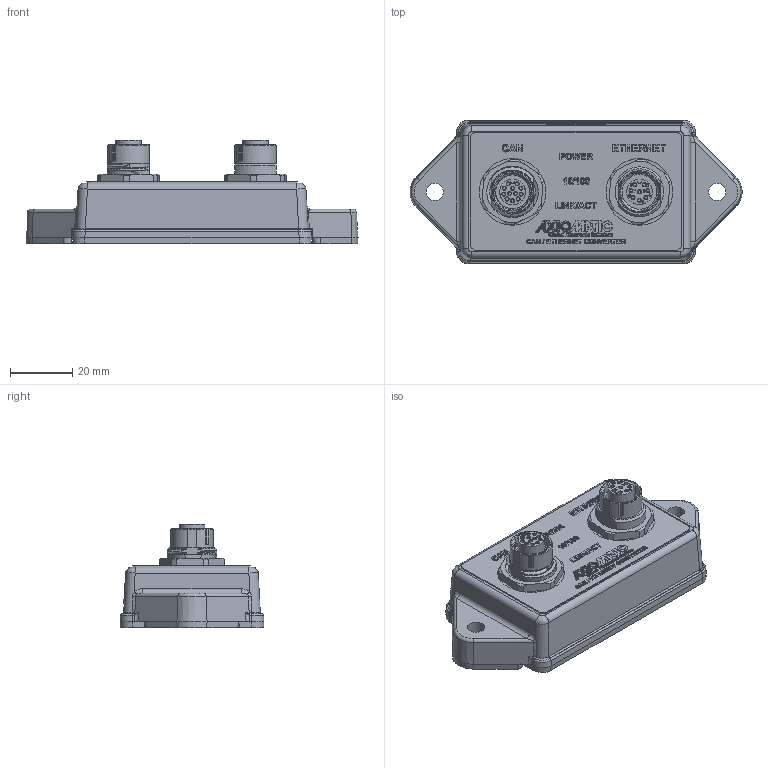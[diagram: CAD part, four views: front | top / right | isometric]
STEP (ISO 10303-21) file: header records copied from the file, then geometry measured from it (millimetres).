
FILE_DESCRIPTION(/* description */ (''),/* implementation_level */ '2;1');
FILE_NAME(/* name */ 'S:\Projects\RS232-RS232-RS422-CAN-ENET, AX142100, Proj_20008\MECHANICAL\STEP\Updated STEP\FG-AX142100 .stp',/* time_stamp */ '2022-10-05T11:58:30-04:00',/* author */ ('elondono'),/* organization */ (''),/* preprocessor_version */ 'ST-DEVELOPER v16.13',/* originating_system */ 'Autodesk Inventor 2018',/* authorisation */ '');
FILE_SCHEMA (('AUTOMOTIVE_DESIGN { 1 0 10303 214 3 1 1 }'));
Products named in the file (1): FG-AX142100 for STEP
Bounding box: 106.32 x 46.04 x 33.27 mm (x, y, z)
Volume: 30469 mm3; surface area: 27970.3 mm2
Topology: 1 solids, 1 shells, 4986 faces, 13239 edges, 8770 vertices
Faces by surface type: plane 3218, bspline 1358, cylinder 250, cone 84, torus 55, sphere 21
Full cylindrical faces by diameter (mm): 0.217 x1, 0.6 x20, 1 x28, 1.1 x12, 1.52 x2, 3.861 x3, 11.13 x1, 12.2 x1, 15.6 x1, 21.336 x2
Entity records: 174729 total; most frequent: CARTESIAN_POINT 55496, ORIENTED_EDGE 26008, DIRECTION 18467, EDGE_CURVE 13004, LINE 9279, VECTOR 9279, VERTEX_POINT 8683, EDGE_LOOP 5667
